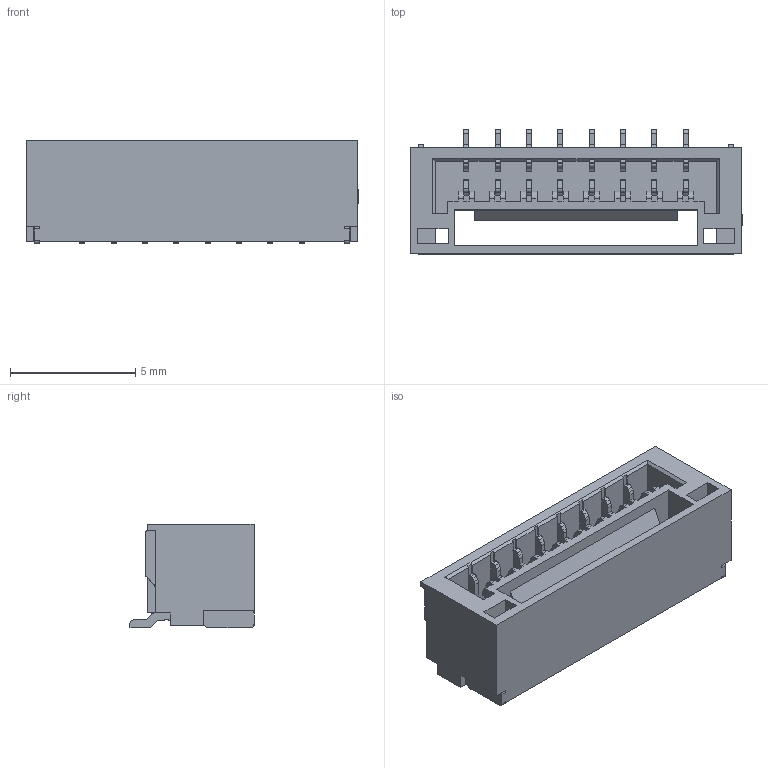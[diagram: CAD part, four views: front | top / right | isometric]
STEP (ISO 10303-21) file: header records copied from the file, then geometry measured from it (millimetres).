
FILE_DESCRIPTION (( 'STEP AP214' ), '1' );
FILE_NAME ('WAFER-GH1.25-8PLB.STEP', '2024-09-24T03:05:08', ( '' ), ( '' ), 'SwSTEP 2.0', 'SolidWorks 2021', '' );
FILE_SCHEMA (( 'AUTOMOTIVE_DESIGN' ));
Length unit declared in the file: millimetre
Products named in the file (1): WAFER-GH1.25-8PLB
Bounding box: 13.25 x 4.95 x 4.15 mm (x, y, z)
Volume: 121.2 mm3; surface area: 525.7 mm2
Topology: 1 solids, 1 shells, 977 faces, 2764 edges, 1818 vertices
Faces by surface type: plane 653, cylinder 226, bspline 98
Entity records: 42737 total; most frequent: CARTESIAN_POINT 6872, ORIENTED_EDGE 5528, DIRECTION 4786, EDGE_CURVE 2764, VECTOR 2098, LINE 2098, VERTEX_POINT 1818, AXIS2_PLACEMENT_3D 1344
